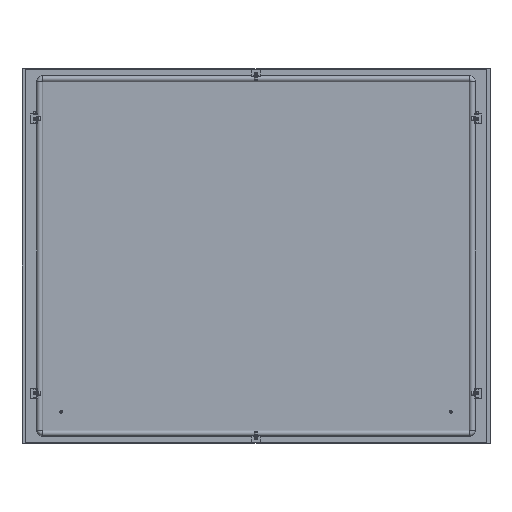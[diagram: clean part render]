
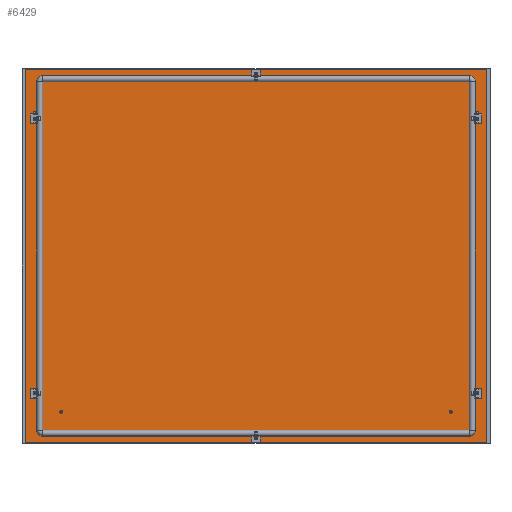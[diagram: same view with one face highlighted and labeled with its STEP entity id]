
A CAD part, top view. The second image highlights one B-rep face of the part: STEP entity #6429.
In plain terms, the highlighted planar face has unit normal (0, 0, 1).
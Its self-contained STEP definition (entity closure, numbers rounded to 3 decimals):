
#6085 = VERTEX_POINT('',#6086);
#6086 = CARTESIAN_POINT('',(-595.5,477.5,0.));
#6092 = EDGE_CURVE('',#6085,#6093,#6095,.T.);
#6093 = VERTEX_POINT('',#6094);
#6094 = CARTESIAN_POINT('',(-595.3,477.5,0.));
#6095 = LINE('',#6096,#6097);
#6096 = CARTESIAN_POINT('',(0.,477.5,0.
    ));
#6097 = VECTOR('',#6098,1.);
#6098 = DIRECTION('',(1.,0.,0.));
#6117 = VERTEX_POINT('',#6118);
#6118 = CARTESIAN_POINT('',(595.3,477.5,0.));
#6124 = EDGE_CURVE('',#6125,#6117,#6127,.T.);
#6125 = VERTEX_POINT('',#6126);
#6126 = CARTESIAN_POINT('',(595.5,477.5,0.));
#6127 = LINE('',#6128,#6129);
#6128 = CARTESIAN_POINT('',(0.,477.5,0.
    ));
#6129 = VECTOR('',#6130,1.);
#6130 = DIRECTION('',(-1.,0.,-0.));
#6147 = VERTEX_POINT('',#6148);
#6148 = CARTESIAN_POINT('',(595.5,-477.5,0.)
  );
#6179 = EDGE_CURVE('',#6147,#6125,#6180,.T.);
#6180 = LINE('',#6181,#6182);
#6181 = CARTESIAN_POINT('',(595.5,0.,0.));
#6182 = VECTOR('',#6183,1.);
#6183 = DIRECTION('',(-0.,1.,-0.));
#6263 = EDGE_CURVE('',#6147,#6264,#6266,.T.);
#6264 = VERTEX_POINT('',#6265);
#6265 = CARTESIAN_POINT('',(595.3,-477.5,0.)
  );
#6266 = LINE('',#6267,#6268);
#6267 = CARTESIAN_POINT('',(0.,-477.5,
    0.));
#6268 = VECTOR('',#6269,1.);
#6269 = DIRECTION('',(-1.,0.,0.));
#6288 = VERTEX_POINT('',#6289);
#6289 = CARTESIAN_POINT('',(-595.3,-477.5,0.)
  );
#6295 = EDGE_CURVE('',#6296,#6288,#6298,.T.);
#6296 = VERTEX_POINT('',#6297);
#6297 = CARTESIAN_POINT('',(-595.5,-477.5,0.)
  );
#6298 = LINE('',#6299,#6300);
#6299 = CARTESIAN_POINT('',(0.,-477.5,
    0.));
#6300 = VECTOR('',#6301,1.);
#6301 = DIRECTION('',(1.,-0.,-0.));
#6341 = EDGE_CURVE('',#6085,#6296,#6342,.T.);
#6342 = LINE('',#6343,#6344);
#6343 = CARTESIAN_POINT('',(-595.5,0.,0.));
#6344 = VECTOR('',#6345,1.);
#6345 = DIRECTION('',(0.,-1.,-0.));
#6429 = ADVANCED_FACE('',(#6430,#6482,#6493,#6513,#6533,#6544,#6555),
  #6566,.F.);
#6430 = FACE_BOUND('',#6431,.T.);
#6431 = EDGE_LOOP('',(#6432,#6440,#6448,#6454,#6455,#6456,#6457,#6465,
    #6473,#6479,#6480,#6481));
#6432 = ORIENTED_EDGE('',*,*,#6433,.F.);
#6433 = EDGE_CURVE('',#6434,#6117,#6436,.T.);
#6434 = VERTEX_POINT('',#6435);
#6435 = CARTESIAN_POINT('',(595.3,476.,0.));
#6436 = LINE('',#6437,#6438);
#6437 = CARTESIAN_POINT('',(595.3,0.,
    0.));
#6438 = VECTOR('',#6439,1.);
#6439 = DIRECTION('',(0.,1.,0.));
#6440 = ORIENTED_EDGE('',*,*,#6441,.T.);
#6441 = EDGE_CURVE('',#6434,#6442,#6444,.T.);
#6442 = VERTEX_POINT('',#6443);
#6443 = CARTESIAN_POINT('',(-595.3,476.,0.));
#6444 = LINE('',#6445,#6446);
#6445 = CARTESIAN_POINT('',(0.,476.,0.)
  );
#6446 = VECTOR('',#6447,1.);
#6447 = DIRECTION('',(-1.,0.,-0.));
#6448 = ORIENTED_EDGE('',*,*,#6449,.T.);
#6449 = EDGE_CURVE('',#6442,#6093,#6450,.T.);
#6450 = LINE('',#6451,#6452);
#6451 = CARTESIAN_POINT('',(-595.3,476.,0.));
#6452 = VECTOR('',#6453,1.);
#6453 = DIRECTION('',(0.,1.,-0.));
#6454 = ORIENTED_EDGE('',*,*,#6092,.F.);
#6455 = ORIENTED_EDGE('',*,*,#6341,.T.);
#6456 = ORIENTED_EDGE('',*,*,#6295,.T.);
#6457 = ORIENTED_EDGE('',*,*,#6458,.F.);
#6458 = EDGE_CURVE('',#6459,#6288,#6461,.T.);
#6459 = VERTEX_POINT('',#6460);
#6460 = CARTESIAN_POINT('',(-595.3,-476.,0.));
#6461 = LINE('',#6462,#6463);
#6462 = CARTESIAN_POINT('',(-595.3,0.,
    0.));
#6463 = VECTOR('',#6464,1.);
#6464 = DIRECTION('',(0.,-1.,0.));
#6465 = ORIENTED_EDGE('',*,*,#6466,.T.);
#6466 = EDGE_CURVE('',#6459,#6467,#6469,.T.);
#6467 = VERTEX_POINT('',#6468);
#6468 = CARTESIAN_POINT('',(595.3,-476.,0.));
#6469 = LINE('',#6470,#6471);
#6470 = CARTESIAN_POINT('',(0.,-476.,0.
    ));
#6471 = VECTOR('',#6472,1.);
#6472 = DIRECTION('',(1.,-0.,-0.));
#6473 = ORIENTED_EDGE('',*,*,#6474,.T.);
#6474 = EDGE_CURVE('',#6467,#6264,#6475,.T.);
#6475 = LINE('',#6476,#6477);
#6476 = CARTESIAN_POINT('',(595.3,-476.,0.));
#6477 = VECTOR('',#6478,1.);
#6478 = DIRECTION('',(0.,-1.,-0.));
#6479 = ORIENTED_EDGE('',*,*,#6263,.F.);
#6480 = ORIENTED_EDGE('',*,*,#6179,.T.);
#6481 = ORIENTED_EDGE('',*,*,#6124,.T.);
#6482 = FACE_BOUND('',#6483,.T.);
#6483 = EDGE_LOOP('',(#6484));
#6484 = ORIENTED_EDGE('',*,*,#6485,.F.);
#6485 = EDGE_CURVE('',#6486,#6486,#6488,.T.);
#6486 = VERTEX_POINT('',#6487);
#6487 = CARTESIAN_POINT('',(-4.75,464.5,
    0.));
#6488 = CIRCLE('',#6489,4.75);
#6489 = AXIS2_PLACEMENT_3D('',#6490,#6491,#6492);
#6490 = CARTESIAN_POINT('',(0.,464.5,0.));
#6491 = DIRECTION('',(0.,-0.,1.));
#6492 = DIRECTION('',(-1.,0.,0.));
#6493 = FACE_BOUND('',#6494,.T.);
#6494 = EDGE_LOOP('',(#6495,#6506));
#6495 = ORIENTED_EDGE('',*,*,#6496,.F.);
#6496 = EDGE_CURVE('',#6497,#6499,#6501,.T.);
#6497 = VERTEX_POINT('',#6498);
#6498 = CARTESIAN_POINT('',(-564.5,354.75,
    0.));
#6499 = VERTEX_POINT('',#6500);
#6500 = CARTESIAN_POINT('',(-564.5,345.25,
    0.));
#6501 = CIRCLE('',#6502,4.75);
#6502 = AXIS2_PLACEMENT_3D('',#6503,#6504,#6505);
#6503 = CARTESIAN_POINT('',(-564.5,350.,
    0.));
#6504 = DIRECTION('',(0.,0.,1.));
#6505 = DIRECTION('',(0.,1.,0.));
#6506 = ORIENTED_EDGE('',*,*,#6507,.F.);
#6507 = EDGE_CURVE('',#6499,#6497,#6508,.T.);
#6508 = CIRCLE('',#6509,4.75);
#6509 = AXIS2_PLACEMENT_3D('',#6510,#6511,#6512);
#6510 = CARTESIAN_POINT('',(-564.5,350.,
    0.));
#6511 = DIRECTION('',(0.,0.,1.));
#6512 = DIRECTION('',(0.,1.,0.));
#6513 = FACE_BOUND('',#6514,.T.);
#6514 = EDGE_LOOP('',(#6515,#6526));
#6515 = ORIENTED_EDGE('',*,*,#6516,.F.);
#6516 = EDGE_CURVE('',#6517,#6519,#6521,.T.);
#6517 = VERTEX_POINT('',#6518);
#6518 = CARTESIAN_POINT('',(564.5,345.25,
    0.));
#6519 = VERTEX_POINT('',#6520);
#6520 = CARTESIAN_POINT('',(564.5,354.75,
    0.));
#6521 = CIRCLE('',#6522,4.75);
#6522 = AXIS2_PLACEMENT_3D('',#6523,#6524,#6525);
#6523 = CARTESIAN_POINT('',(564.5,350.,
    0.));
#6524 = DIRECTION('',(0.,0.,1.));
#6525 = DIRECTION('',(0.,-1.,0.));
#6526 = ORIENTED_EDGE('',*,*,#6527,.F.);
#6527 = EDGE_CURVE('',#6519,#6517,#6528,.T.);
#6528 = CIRCLE('',#6529,4.75);
#6529 = AXIS2_PLACEMENT_3D('',#6530,#6531,#6532);
#6530 = CARTESIAN_POINT('',(564.5,350.,
    0.));
#6531 = DIRECTION('',(0.,0.,1.));
#6532 = DIRECTION('',(0.,-1.,0.));
#6533 = FACE_BOUND('',#6534,.T.);
#6534 = EDGE_LOOP('',(#6535));
#6535 = ORIENTED_EDGE('',*,*,#6536,.T.);
#6536 = EDGE_CURVE('',#6537,#6537,#6539,.T.);
#6537 = VERTEX_POINT('',#6538);
#6538 = CARTESIAN_POINT('',(-4.75,-464.5,0.)
  );
#6539 = CIRCLE('',#6540,4.75);
#6540 = AXIS2_PLACEMENT_3D('',#6541,#6542,#6543);
#6541 = CARTESIAN_POINT('',(0.,-464.5,0.));
#6542 = DIRECTION('',(0.,0.,-1.));
#6543 = DIRECTION('',(-1.,0.,0.));
#6544 = FACE_BOUND('',#6545,.T.);
#6545 = EDGE_LOOP('',(#6546));
#6546 = ORIENTED_EDGE('',*,*,#6547,.T.);
#6547 = EDGE_CURVE('',#6548,#6548,#6550,.T.);
#6548 = VERTEX_POINT('',#6549);
#6549 = CARTESIAN_POINT('',(-564.5,-345.25,
    0.));
#6550 = CIRCLE('',#6551,4.75);
#6551 = AXIS2_PLACEMENT_3D('',#6552,#6553,#6554);
#6552 = CARTESIAN_POINT('',(-564.5,-350.,0.));
#6553 = DIRECTION('',(0.,0.,-1.));
#6554 = DIRECTION('',(0.,1.,0.));
#6555 = FACE_BOUND('',#6556,.T.);
#6556 = EDGE_LOOP('',(#6557));
#6557 = ORIENTED_EDGE('',*,*,#6558,.T.);
#6558 = EDGE_CURVE('',#6559,#6559,#6561,.T.);
#6559 = VERTEX_POINT('',#6560);
#6560 = CARTESIAN_POINT('',(564.5,-354.75,
    0.));
#6561 = CIRCLE('',#6562,4.75);
#6562 = AXIS2_PLACEMENT_3D('',#6563,#6564,#6565);
#6563 = CARTESIAN_POINT('',(564.5,-350.,0.));
#6564 = DIRECTION('',(-0.,0.,-1.));
#6565 = DIRECTION('',(0.,-1.,0.));
#6566 = PLANE('',#6567);
#6567 = AXIS2_PLACEMENT_3D('',#6568,#6569,#6570);
#6568 = CARTESIAN_POINT('',(0.,0.,0.));
#6569 = DIRECTION('',(0.,0.,-1.));
#6570 = DIRECTION('',(-1.,0.,0.));
